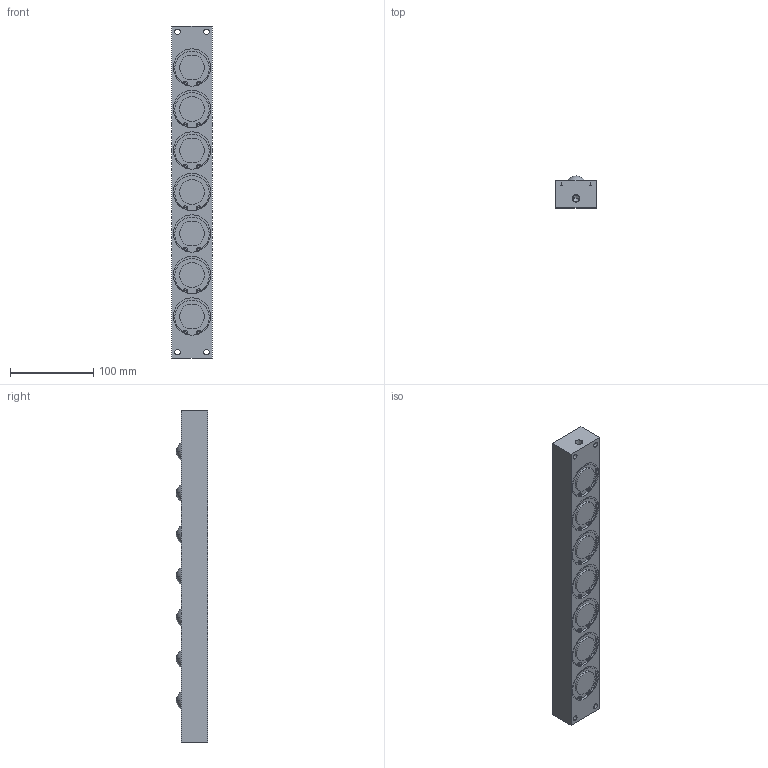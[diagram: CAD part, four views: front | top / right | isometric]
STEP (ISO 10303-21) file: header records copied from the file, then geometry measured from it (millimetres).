
FILE_DESCRIPTION (( 'STEP AP203' ), '1' );
FILE_NAME ('PVL55SL-7.STEP', '2016-01-06T00:33:55', ( '' ), ( '' ), 'SwSTEP 2.0', 'SolidWorks 2013', '' );
FILE_SCHEMA (( 'CONFIG_CONTROL_DESIGN' ));
Length unit declared in the file: millimetre
Products named in the file (1): PVL55SL-7
Bounding box: 49 x 38 x 400 mm (x, y, z)
Volume: 615149.1 mm3; surface area: 89331.6 mm2
Topology: 1 solids, 1 shells, 306 faces, 755 edges, 504 vertices
Faces by surface type: cylinder 200, plane 88, sphere 14, cone 4
Entity records: 9412 total; most frequent: DIRECTION 1841, CARTESIAN_POINT 1564, ORIENTED_EDGE 1506, AXIS2_PLACEMENT_3D 781, EDGE_CURVE 753, VERTEX_POINT 504, CIRCLE 474, EDGE_LOOP 369
